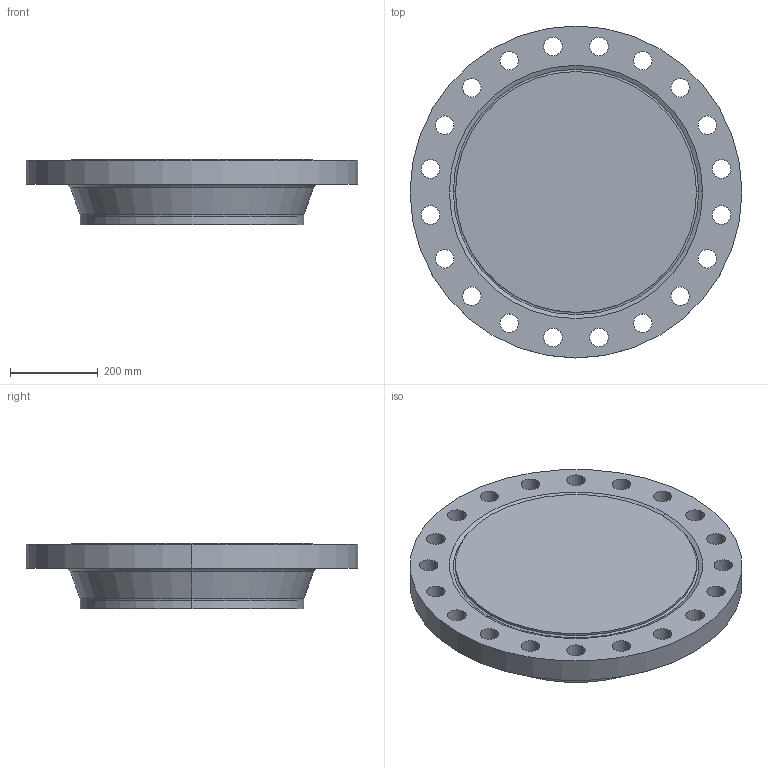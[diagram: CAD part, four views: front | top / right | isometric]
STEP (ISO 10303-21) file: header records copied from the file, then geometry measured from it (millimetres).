
FILE_DESCRIPTION (( 'STEP AP214' ), '1' );
FILE_NAME ('PN40 DN500 Type 21(ii) - Type H Face.STEP', '2018-12-29T04:20:43', ( '' ), ( '' ), 'SwSTEP 2.0', 'SolidWorks 2019', '' );
FILE_SCHEMA (( 'AUTOMOTIVE_DESIGN' ));
Length unit declared in the file: millimetre
Products named in the file (1): PN40 DN500 Type 21(ii) - Type H Face
Bounding box: 755 x 755 x 150 mm (x, y, z)
Volume: 43679222.1 mm3; surface area: 1238781.3 mm2
Topology: 1 solids, 1 shells, 60 faces, 158 edges, 102 vertices
Faces by surface type: cylinder 46, torus 6, cone 4, plane 4
Entity records: 2024 total; most frequent: DIRECTION 388, CARTESIAN_POINT 321, ORIENTED_EDGE 316, AXIS2_PLACEMENT_3D 169, EDGE_CURVE 158, CIRCLE 108, EDGE_LOOP 102, VERTEX_POINT 102
